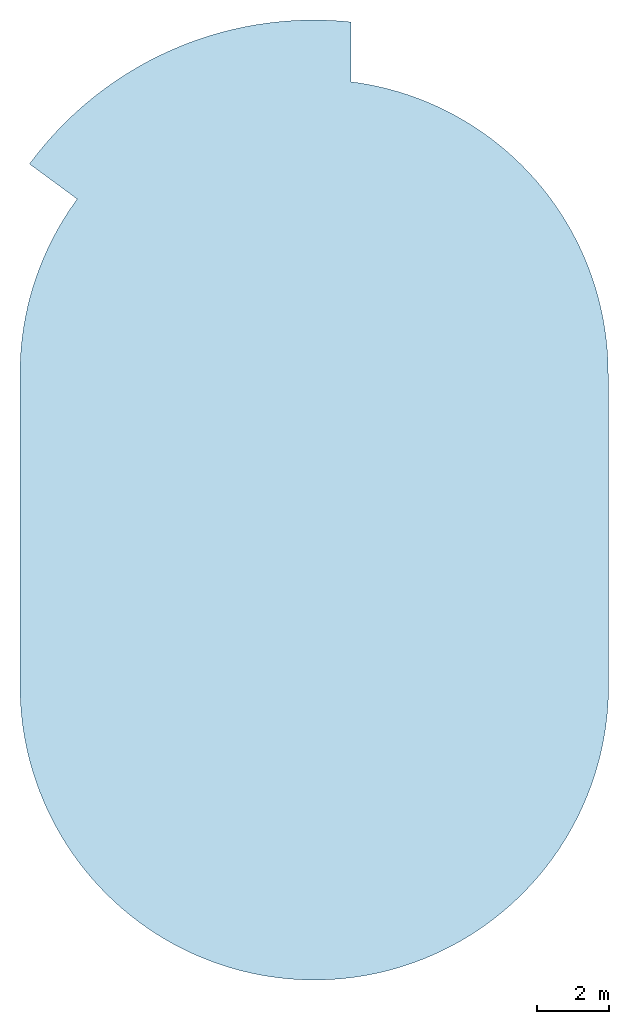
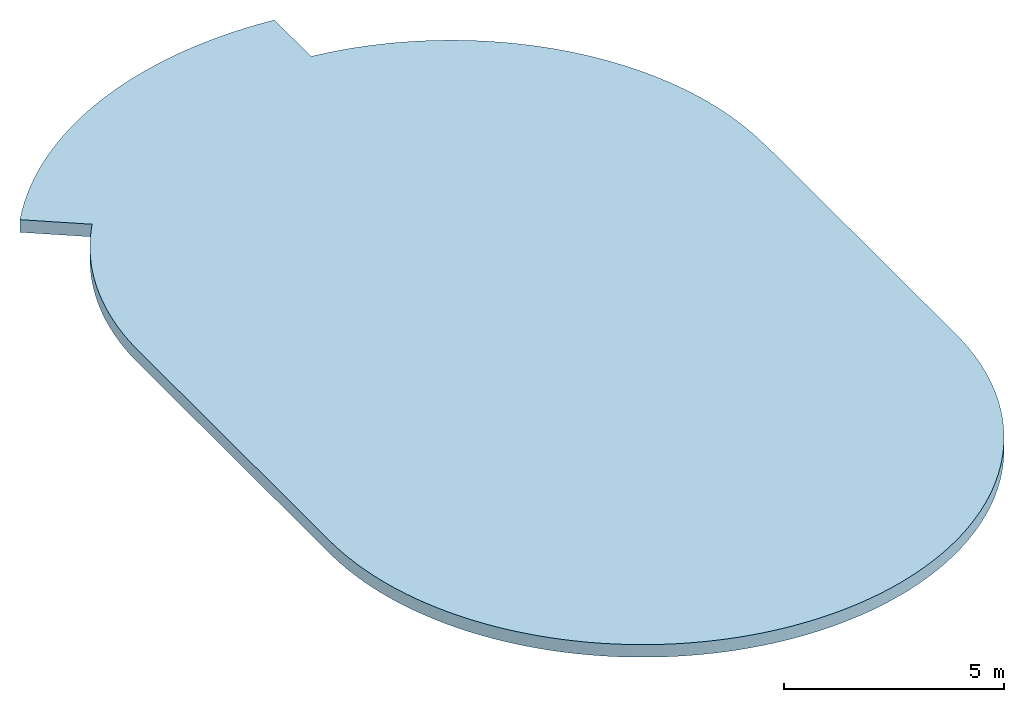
# One storey: 1 slab.
"""IFC4 building model written with IfcOpenShell, lengths in millimetres."""

from ifc_helpers import new_model, entity, si_unit, converted_unit, derived_unit, direction, frame, origin_with_axes, place, context, subcontext, project, spatial, polygons, material, type_object, element, save


model = new_model("IFC4")

# Units and contexts
model_context = context("Model", 3, precision=0.01, world=origin_with_axes(), true_north=direction((0.0, 1.0)))
body_context = subcontext(model_context, "Body", "Model", "MODEL_VIEW")
ifc_project = project(units=[si_unit("LENGTHUNIT", "METRE", prefix="MILLI"), si_unit("AREAUNIT", "SQUARE_METRE"), si_unit("VOLUMEUNIT", "CUBIC_METRE"), converted_unit("PLANEANGLEUNIT", "DEGREE", entity("IfcPlaneAngleMeasure", 0.0174532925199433), si_unit("PLANEANGLEUNIT", "RADIAN"), dimensions=[0, 0, 0, 0, 0, 0, 0]), converted_unit("TIMEUNIT", "Year", entity("IfcTimeMeasure", 31557600.0), si_unit("TIMEUNIT", "SECOND"), dimensions=[0, 0, 1, 0, 0, 0, 0]), si_unit("MASSUNIT", "GRAM", prefix="KILO"), si_unit("THERMODYNAMICTEMPERATUREUNIT", "DEGREE_CELSIUS"), si_unit("LUMINOUSINTENSITYUNIT", "LUMEN"), si_unit("ENERGYUNIT", "JOULE", prefix="MEGA"), derived_unit("THERMALCONDUCTANCEUNIT", [(si_unit("POWERUNIT", "WATT"), 1), (si_unit("LENGTHUNIT", "METRE"), -1), (si_unit("THERMODYNAMICTEMPERATUREUNIT", "KELVIN"), -1)]), derived_unit("SPECIFICHEATCAPACITYUNIT", [(si_unit("ENERGYUNIT", "JOULE"), 1), (si_unit("MASSUNIT", "GRAM", prefix="KILO"), -1), (si_unit("THERMODYNAMICTEMPERATUREUNIT", "KELVIN"), -1)]), derived_unit("MASSDENSITYUNIT", [(si_unit("MASSUNIT", "GRAM", prefix="KILO"), 1), (si_unit("VOLUMEUNIT", "CUBIC_METRE"), -1)])], contexts=[model_context])

# Site, building, storey
site_placement = place(None, origin_with_axes())
site = spatial("IfcSite", under=ifc_project, at=site_placement, Name="Exteriér", CompositionType="ELEMENT")
building_placement = place(site_placement, origin_with_axes())
building = spatial("IfcBuilding", under=site, at=building_placement, Name="Univerzitní lezecké centrum", CompositionType="ELEMENT")
storey_placement = place(building_placement, frame((0.0, 0.0, -4070.0), z_axis=(0.0, 0.0, 1.0), x_axis=(1.0, 0.0, 0.0)))
storey = spatial("IfcBuildingStorey", under=building, at=storey_placement, Name="ZÁKLADY", CompositionType="ELEMENT", Elevation=-4070.0)

# Slab
ifc_material = material(Name="Beton vyztužený základová deska")
slab_type = type_object("IfcSlabType", Name="Beton vyztužený základová deska 350", PredefinedType="FLOOR")
slab_placement = place(storey_placement, frame((-5750.148351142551, 4400.000000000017, 499.9999999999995), z_axis=(0.0, 0.0, 1.0), x_axis=(1.0, 0.0, 0.0)))
element("IfcSlab", 1, at=slab_placement, inside=storey, type_object=slab_type, material=ifc_material, Name="D01", PredefinedType="FLOOR", context=body_context, shape_type="Tessellation", body=[
    polygons([(16400.0, -4699.999999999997, -350.0000000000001), (16400.0, 4000.000000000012, -350.0000000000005), (16400.0, 4000.000000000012, 0.0), (16400.0, -4699.999999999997, 0.0), (16388.99999776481, 4143.738235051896, -350.0000000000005), (16388.99999776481, 4000.000000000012, -350.0000000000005), (16396.21112790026, -4987.818293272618, -350.0000000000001), (16381.06147443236, -5275.281995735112, -350.0000000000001), (16355.83279095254, -5562.036953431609, -350.0000000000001), (16320.55615908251, -5847.729885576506, -350.0000000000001), (16275.27503947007, -6132.008819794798, -350.0000000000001), (16220.04521824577, -6414.52352575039, -350.0000000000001), (16154.93473829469, -6694.925946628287, -350.0000000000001), (16080.02381542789, -6972.870627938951, -350.0000000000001), (15995.40473955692, -7248.015143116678, -350.0000000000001), (15901.18176099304, -7520.020515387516, -350.0000000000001), (15797.47096201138, -7788.551635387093, -350.0000000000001), (15684.40011383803, -8053.277674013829, -350.0000000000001), (15562.10851923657, -8313.87249000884, -350.0000000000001), (15430.74684088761, -8570.015031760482, -350.0000000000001), (15290.47691577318, -8821.389732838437, -350.0000000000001), (15141.47155579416, -9067.686900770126, -350.0000000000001), (14983.91433486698, -9308.603098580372, -350.0000000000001), (14817.99936276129, -9543.8415186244, -350.0000000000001), (14643.93104595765, -9773.112348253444, -350.0000000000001), (14461.92383581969, -9996.133126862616, -350.0000000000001), (14272.20196439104, -10212.62909388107, -350.0000000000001), (14074.99916814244, -10422.33352727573, -350.0000000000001), (13870.55840000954, -10624.98807215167, -350.0000000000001), (13659.13153007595, -10820.34305904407, -350.0000000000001), (13440.97903527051, -11008.1578115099, -350.0000000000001), (13216.36967846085, -11188.20094264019, -350.0000000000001), (12985.58017733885, -11360.25064012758, -350.0000000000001), (12748.89486350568, -11524.09493953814, -350.0000000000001), (12506.60533217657, -11679.53198545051, -350.0000000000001), (12259.01008293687, -11826.37028014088, -350.0000000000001), (12006.41415199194, -11964.42891950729, -350.0000000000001), (11749.12873636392, -12093.53781594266, -350.0000000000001), (11487.47081049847, -12213.53790788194, -350.0000000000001), (11221.76273575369, -12324.28135576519, -350.0000000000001), (10952.33186325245, -12425.63172417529, -350.0000000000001), (10679.51013058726, -12517.4641499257, -350.0000000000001), (10403.63365287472, -12599.66549589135, -350.0000000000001), (10125.04230866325, -12672.13449039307, -350.0000000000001), (9844.079321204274, -12734.7818519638, -350.0000000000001), (9561.09083560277, -12787.53039934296, -350.0000000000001), (9276.425492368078, -12830.31514656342, -350.0000000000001), (8990.43399789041, -12863.08338301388, -350.0000000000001), (8703.468692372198, -12885.79473837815, -350.0000000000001), (8415.88311574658, -12898.42123237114, -350.0000000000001), (8128.031572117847, -12900.94730921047, -350.0000000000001), (7840.268693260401, -12893.36985678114, -350.0000000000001), (7552.949001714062, -12875.69821046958, -350.0000000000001), (7266.426474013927, -12847.95414166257, -350.0000000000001), (6981.054104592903, -12810.17183092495, -350.0000000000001), (6697.183470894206, -12762.39782588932, -350.0000000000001), (6415.164300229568, -12704.69098390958, -350.0000000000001), (6135.3440389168, -12637.12239954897, -350.0000000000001), (5858.067424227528, -12559.77531699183, -350.0000000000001), (5583.676059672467, -12472.74502748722, -350.0000000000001), (5312.507994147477, -12376.1387519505, -350.0000000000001), (5044.897305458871, -12270.07550886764, -350.0000000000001), (4781.173688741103, -12154.68596766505, -350.0000000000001), (4521.662050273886, -12030.11228772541, -350.0000000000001), (4266.68210719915, -11896.50794324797, -350.0000000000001), (4016.547993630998, -11754.03753416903, -350.0000000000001), (3771.567873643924, -11602.87658337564, -350.0000000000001), (3532.043561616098, -11443.21132046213, -350.0000000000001), (3298.270150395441, -11275.23845229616, -350.0000000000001), (3070.535647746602, -11099.16492067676, -350.0000000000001), (2849.120621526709, -10915.20764738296, -350.0000000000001), (2634.297854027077, -10723.59326692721, -350.0000000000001), (2426.332005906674, -10524.55784734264, -350.0000000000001), (2225.479290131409, -10318.3465993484, -350.0000000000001), (2031.987156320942, -10105.21357425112, -350.0000000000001), (1846.093985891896, -9885.42135095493, -350.0000000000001), (1668.02879837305, -9659.240712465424, -350.0000000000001), (1498.010969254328, -9426.950312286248, -350.0000000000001), (1336.249959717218, -9188.83633111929, -350.0000000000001), (1182.945058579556, -8945.19212429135, -350.0000000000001), (1038.285136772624, -8696.317860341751, -350.0000000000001), (902.448414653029, -8442.520151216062, -350.0000000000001), (775.6022424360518, -8184.111674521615, -350.0000000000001), (657.9028940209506, -7921.410788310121, -350.0000000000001), (549.4953744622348, -7654.741138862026, -350.0000000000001), (450.5132413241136, -7384.431261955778, -350.0000000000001), (361.0784401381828, -7110.814178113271, -350.0000000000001), (281.3011541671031, -6834.226982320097, -350.0000000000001), (211.2796686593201, -6555.010428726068, -350.0000000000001), (151.1002497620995, -6273.508510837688, -350.0000000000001), (100.8370382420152, -5990.068037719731, -350.0000000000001), (60.55195814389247, -5705.038206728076, -350.0000000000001), (30.29464050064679, -5418.770173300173, -350.0000000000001), (10.10236218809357, -5131.616618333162, -350.0000000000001), (0.0, -4843.931313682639, -350.0000000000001), (0.0, -4699.999999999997, -350.0000000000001), (0.0, 4000.000000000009, -350.0000000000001), (0.3867747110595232, 4164.496743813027, -350.0000000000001), (11.21062979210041, 4452.155806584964, -350.0000000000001), (32.12303561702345, 4739.257815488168, -350.0000000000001), (63.09822819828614, 5025.449062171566, -350.0000000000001), (104.09804624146, 5310.376960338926, -350.0000000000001), (155.0719781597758, 5593.690480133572, -350.0000000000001), (215.9572243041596, 5875.040580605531, -350.0000000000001), (286.6787743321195, 6154.080639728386, -350.0000000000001), (367.1494996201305, 6430.466881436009, -350.0000000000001), (457.2702606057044, 6703.858799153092, -350.0000000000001), (556.9300289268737, 6973.919575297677, -350.0000000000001), (666.0060242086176, 7240.316496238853, -350.0000000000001), (784.3638653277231, 7502.721362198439, -350.0000000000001), (911.8577359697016, 7760.810891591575, -350.0000000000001), (1048.330564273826, 8014.26711930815, -350.0000000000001), (1193.614216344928, 8262.777788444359, -350.0000000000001), (1347.529703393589, 8506.036735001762, -350.0000000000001), (1509.887402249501, 8743.744265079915, -350.0000000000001), (1595.187345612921, 8859.675894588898, -350.0000000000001), (1593.007202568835, 8858.738743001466, -350.0000000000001), (264.7648731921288, 9835.519354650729, -350.0000000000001), (298.3153838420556, 9883.026591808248, -350.0000000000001), (489.3694703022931, 10131.60763733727, -350.0000000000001), (688.2533748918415, 10373.96974791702, -350.0000000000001), (894.7648003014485, 10609.86640182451, -350.0000000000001), (1108.693690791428, 10839.05765375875, -350.0000000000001), (1329.82244585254, 11061.3103789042, -350.0000000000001), (1557.926141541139, 11276.39851005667, -350.0000000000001), (1792.772759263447, 11484.10326757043, -350.0000000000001), (2034.123421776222, 11684.21338189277, -350.0000000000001), (2281.73263616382, 11876.52530845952, -350.0000000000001), (2535.348543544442, 12060.84343473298, -350.0000000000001), (2794.713175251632, 12236.98027917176, -350.0000000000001), (3059.562715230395, 12404.75668192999, -350.0000000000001), (3329.627768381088, 12564.0019870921, -350.0000000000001), (3604.633634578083, 12714.55421625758, -350.0000000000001), (3884.300588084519, 12856.26023329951, -350.0000000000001), (4168.34416207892, 12988.97590012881, -350.0000000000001), (4456.475438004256, 13112.5662233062, -350.0000000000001), (4748.401339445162, 13226.90549135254, -350.0000000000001), (5043.824930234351, 13331.87740261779, -350.0000000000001), (5342.44571648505, 13427.37518357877, -350.0000000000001), (5643.9599522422, 13513.3016974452, -350.0000000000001), (5948.060948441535, 13589.56954296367, -350.0000000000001), (6254.439384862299, 13656.10114331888, -350.0000000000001), (6562.783624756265, 13712.82882504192, -350.0000000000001), (6872.780031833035, 13759.69488684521, -350.0000000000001), (7184.113289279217, 13796.65165831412, -350.0000000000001), (7496.466720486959, 13823.6615483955, -350.0000000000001), (7809.522611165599, 13840.69708363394, -350.0000000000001), (8122.962532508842, 13847.7409361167, -350.0000000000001), (8436.467665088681, 13844.78594109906, -350.0000000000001), (8749.71912314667, 13831.83510429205, -350.0000000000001), (9062.398278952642, 13808.90159880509, -350.0000000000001), (9218.292682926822, 13792.45517527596, -350.0000000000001), (9218.292682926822, 12136.52751558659, -350.0000000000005), (9216.952511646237, 12125.81906144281, -350.0000000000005), (9417.310723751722, 12099.29232991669, -350.0000000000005), (9700.800555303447, 12051.582411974, -350.0000000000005), (9982.441407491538, 11993.95298162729, -350.0000000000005), (10261.88630008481, 11926.47503806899, -350.0000000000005), (10538.79095826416, 11849.23171381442, -350.0000000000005), (10812.81423676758, 11762.31817228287, -350.0000000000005), (11083.61854017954, 11665.84149055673, -350.0000000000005), (11350.87023884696, 11559.92052746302, -350.0000000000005), (11614.24007990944, 11444.68577713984, -350.0000000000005), (11873.40359293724, 11320.27920826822, -350.0000000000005), (12128.04148967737, 11186.85408916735, -350.0000000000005), (12377.84005741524, 11044.5747989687, -350.0000000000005), (12622.49154546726, 10893.61662510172, -350.0000000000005), (12861.69454432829, 10734.16554734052, -350.0000000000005), (13095.15435700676, 10566.41800867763, -350.0000000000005), (13322.58336208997, 10390.58067330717, -350.0000000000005), (13543.70136809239, 10206.8701720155, -350.0000000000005), (13758.23595865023, 10015.51283529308, -350.0000000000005), (13965.9228281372, 9816.744414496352, -350.0000000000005), (14166.50610728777, 9610.809791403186, -350.0000000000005), (14359.73867842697, 9397.962676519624, -350.0000000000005), (14545.38247991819, 9178.46529650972, -350.0000000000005), (14723.20879945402, 8952.588071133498, -350.0000000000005), (14892.9985558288, 8720.609280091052, -350.0000000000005), (15054.54256884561, 8482.814720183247, -350.0000000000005), (15207.64181702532, 8239.49735321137, -350.0000000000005), (15352.10768280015, 7990.956945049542, -350.0000000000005), (15487.76218488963, 7737.499696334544, -350.0000000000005), (15614.43819757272, 7479.43786522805, -350.0000000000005), (15731.97965658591, 7217.08938271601, -350.0000000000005), (15840.24175139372, 6950.777460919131, -350.0000000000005), (15939.09110359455, 6680.83019489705, -350.0000000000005), (16028.40593124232, 6407.580158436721, -350.0000000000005), (16108.0761988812, 6131.363994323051, -350.0000000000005), (16178.00375310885, 5852.521999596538, -350.0000000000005), (16238.1024435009, 5571.397706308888, -350.0000000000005), (16288.29822874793, 5288.337458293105, -350.0000000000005), (16328.52926787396, 5003.689984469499, -350.0000000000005), (16358.74599642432, 4717.80596921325, -350.0000000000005), (16378.91118752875, 4431.037620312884, -350.0000000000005), (16388.99999776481, 4000.000000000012, 0.0), (9417.310723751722, 12099.29232991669, 0.0), (9216.952511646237, 12125.81906144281, 0.0), (9218.292682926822, 12136.52751558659, 0.0), (9218.292682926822, 13792.45517527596, 0.0), (9062.398278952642, 13808.90159880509, 0.0), (8749.71912314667, 13831.83510429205, 0.0), (8436.467665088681, 13844.78594109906, 0.0), (8122.962532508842, 13847.7409361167, 0.0), (7809.522611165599, 13840.69708363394, 0.0), (7496.466720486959, 13823.6615483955, 0.0), (7184.113289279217, 13796.65165831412, 0.0), (6872.780031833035, 13759.69488684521, 0.0), (6562.783624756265, 13712.82882504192, 0.0), (6254.439384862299, 13656.10114331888, 0.0), (5948.060948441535, 13589.56954296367, 0.0), (5643.9599522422, 13513.3016974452, 0.0), (5342.44571648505, 13427.37518357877, 0.0), (5043.824930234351, 13331.87740261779, 0.0), (4748.401339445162, 13226.90549135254, 0.0), (4456.475438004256, 13112.5662233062, 0.0), (4168.34416207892, 12988.97590012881, 0.0), (3884.300588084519, 12856.26023329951, 0.0), (3604.633634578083, 12714.55421625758, 0.0), (3329.627768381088, 12564.0019870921, 0.0), (3059.562715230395, 12404.75668192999, 0.0), (2794.713175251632, 12236.98027917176, 0.0), (2535.348543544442, 12060.84343473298, 0.0), (2281.73263616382, 11876.52530845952, 0.0), (2034.123421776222, 11684.21338189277, 0.0), (1792.772759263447, 11484.10326757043, 0.0), (1557.926141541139, 11276.39851005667, 0.0), (1329.82244585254, 11061.3103789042, 0.0), (1108.693690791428, 10839.05765375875, 0.0), (894.7648003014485, 10609.86640182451, 0.0), (688.2533748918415, 10373.96974791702, 0.0), (489.3694703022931, 10131.60763733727, 0.0), (298.3153838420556, 9883.026591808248, 0.0), (264.7648731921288, 9835.519354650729, 0.0), (1593.007202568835, 8858.738743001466, 0.0), (1595.187345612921, 8859.675894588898, 0.0), (1509.887402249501, 8743.744265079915, 0.0), (1347.529703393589, 8506.036735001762, 0.0), (1193.614216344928, 8262.777788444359, 0.0), (1048.330564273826, 8014.26711930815, 0.0), (911.8577359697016, 7760.810891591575, 0.0), (784.3638653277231, 7502.721362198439, 0.0), (666.0060242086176, 7240.316496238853, 0.0), (556.9300289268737, 6973.919575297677, 0.0), (457.2702606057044, 6703.858799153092, 0.0), (367.1494996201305, 6430.466881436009, 0.0), (286.6787743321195, 6154.080639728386, 0.0), (215.9572243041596, 5875.040580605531, 0.0), (155.0719781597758, 5593.690480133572, 0.0), (104.09804624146, 5310.376960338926, 0.0), (63.09822819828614, 5025.449062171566, 0.0), (32.12303561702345, 4739.257815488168, 0.0), (11.21062979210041, 4452.155806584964, 0.0), (0.3867747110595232, 4164.496743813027, 0.0), (0.0, 4000.000000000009, 0.0), (0.0, -4699.999999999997, 0.0), (0.0, -4843.931313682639, 0.0), (10.10236218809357, -5131.616618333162, 0.0), (30.29464050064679, -5418.770173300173, 0.0), (60.55195814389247, -5705.038206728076, 0.0), (100.8370382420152, -5990.068037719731, 0.0), (151.1002497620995, -6273.508510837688, 0.0), (211.2796686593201, -6555.010428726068, 0.0), (281.3011541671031, -6834.226982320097, 0.0), (361.0784401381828, -7110.814178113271, 0.0), (450.5132413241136, -7384.431261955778, 0.0), (549.4953744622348, -7654.741138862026, 0.0), (657.9028940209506, -7921.410788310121, 0.0), (775.6022424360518, -8184.111674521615, 0.0), (902.448414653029, -8442.520151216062, 0.0), (1038.285136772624, -8696.317860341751, 0.0), (1182.945058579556, -8945.19212429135, 0.0), (1336.249959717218, -9188.83633111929, 0.0), (1498.010969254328, -9426.950312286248, 0.0), (1668.02879837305, -9659.240712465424, 0.0), (1846.093985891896, -9885.42135095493, 0.0), (2031.987156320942, -10105.21357425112, 0.0), (2225.479290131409, -10318.3465993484, 0.0), (2426.332005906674, -10524.55784734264, 0.0), (2634.297854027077, -10723.59326692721, 0.0), (2849.120621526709, -10915.20764738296, 0.0), (3070.535647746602, -11099.16492067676, 0.0), (3298.270150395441, -11275.23845229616, 0.0), (3532.043561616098, -11443.21132046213, 0.0), (3771.567873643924, -11602.87658337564, 0.0), (4016.547993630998, -11754.03753416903, 0.0), (4266.68210719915, -11896.50794324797, 0.0), (4521.662050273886, -12030.11228772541, 0.0), (4781.173688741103, -12154.68596766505, 0.0), (5044.897305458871, -12270.07550886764, 0.0), (5312.507994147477, -12376.1387519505, 0.0), (5583.676059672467, -12472.74502748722, 0.0), (5858.067424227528, -12559.77531699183, 0.0), (6135.3440389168, -12637.12239954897, 0.0), (6415.164300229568, -12704.69098390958, 0.0), (6697.183470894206, -12762.39782588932, 0.0), (6981.054104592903, -12810.17183092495, 0.0), (7266.426474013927, -12847.95414166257, 0.0), (7552.949001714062, -12875.69821046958, 0.0), (7840.268693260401, -12893.36985678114, 0.0), (8128.031572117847, -12900.94730921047, 0.0), (8415.88311574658, -12898.42123237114, 0.0), (8703.468692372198, -12885.79473837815, 0.0), (8990.43399789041, -12863.08338301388, 0.0), (9276.425492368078, -12830.31514656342, 0.0), (9561.09083560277, -12787.53039934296, 0.0), (9844.079321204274, -12734.7818519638, 0.0), (10125.04230866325, -12672.13449039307, 0.0), (10403.63365287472, -12599.66549589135, 0.0), (10679.51013058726, -12517.4641499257, 0.0), (10952.33186325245, -12425.63172417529, 0.0), (11221.76273575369, -12324.28135576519, 0.0), (11487.47081049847, -12213.53790788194, 0.0), (11749.12873636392, -12093.53781594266, 0.0), (12006.41415199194, -11964.42891950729, 0.0), (12259.01008293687, -11826.37028014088, 0.0), (12506.60533217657, -11679.53198545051, 0.0), (12748.89486350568, -11524.09493953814, 0.0), (12985.58017733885, -11360.25064012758, 0.0), (13216.36967846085, -11188.20094264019, 0.0), (13440.97903527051, -11008.1578115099, 0.0), (13659.13153007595, -10820.34305904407, 0.0), (13870.55840000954, -10624.98807215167, 0.0), (14074.99916814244, -10422.33352727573, 0.0), (14272.20196439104, -10212.62909388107, 0.0), (14461.92383581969, -9996.133126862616, 0.0), (14643.93104595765, -9773.112348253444, 0.0), (14817.99936276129, -9543.8415186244, 0.0), (14983.91433486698, -9308.603098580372, 0.0), (15141.47155579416, -9067.686900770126, 0.0), (15290.47691577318, -8821.389732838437, 0.0), (15430.74684088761, -8570.015031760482, 0.0), (15562.10851923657, -8313.87249000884, 0.0), (15684.40011383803, -8053.277674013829, 0.0), (15797.47096201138, -7788.551635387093, 0.0), (15901.18176099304, -7520.020515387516, 0.0), (15995.40473955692, -7248.015143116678, 0.0), (16080.02381542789, -6972.870627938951, 0.0), (16154.93473829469, -6694.925946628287, 0.0), (16220.04521824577, -6414.52352575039, 0.0), (16275.27503947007, -6132.008819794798, 0.0), (16320.55615908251, -5847.729885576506, 0.0), (16355.83279095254, -5562.036953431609, 0.0), (16381.06147443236, -5275.281995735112, 0.0), (16396.21112790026, -4987.818293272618, 0.0), (16388.99999776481, 4143.738235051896, 0.0), (16378.91118752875, 4431.037620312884, 0.0), (16358.74599642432, 4717.80596921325, 0.0), (16328.52926787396, 5003.689984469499, 0.0), (16288.29822874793, 5288.337458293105, 0.0), (16238.1024435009, 5571.397706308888, 0.0), (16178.00375310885, 5852.521999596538, 0.0), (16108.0761988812, 6131.363994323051, 0.0), (16028.40593124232, 6407.580158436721, 0.0), (15939.09110359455, 6680.83019489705, 0.0), (15840.24175139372, 6950.777460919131, 0.0), (15731.97965658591, 7217.08938271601, 0.0), (15614.43819757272, 7479.43786522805, 0.0), (15487.76218488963, 7737.499696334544, 0.0), (15352.10768280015, 7990.956945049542, 0.0), (15207.64181702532, 8239.49735321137, 0.0), (15054.54256884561, 8482.814720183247, 0.0), (14892.9985558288, 8720.609280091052, 0.0), (14723.20879945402, 8952.588071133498, 0.0), (14545.38247991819, 9178.46529650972, 0.0), (14359.73867842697, 9397.962676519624, 0.0), (14166.50610728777, 9610.809791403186, 0.0), (13965.9228281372, 9816.744414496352, 0.0), (13758.23595865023, 10015.51283529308, 0.0), (13543.70136809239, 10206.8701720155, 0.0), (13322.58336208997, 10390.58067330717, 0.0), (13095.15435700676, 10566.41800867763, 0.0), (12861.69454432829, 10734.16554734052, 0.0), (12622.49154546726, 10893.61662510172, 0.0), (12377.84005741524, 11044.5747989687, 0.0), (12128.04148967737, 11186.85408916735, 0.0), (11873.40359293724, 11320.27920826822, 0.0), (11614.24007990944, 11444.68577713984, 0.0), (11350.87023884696, 11559.92052746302, 0.0), (11083.61854017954, 11665.84149055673, 0.0), (10812.81423676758, 11762.31817228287, 0.0), (10538.79095826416, 11849.23171381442, 0.0), (10261.88630008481, 11926.47503806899, 0.0), (9982.441407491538, 11993.95298162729, 0.0), (9700.800555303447, 12051.582411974, 0.0)], [[[1, 2, 3, 4]], [[5, 6, 2, 1, 7, 8, 9, 10, 11, 12, 13, 14, 15, 16, 17, 18, 19, 20, 21, 22, 23, 24, 25, 26, 27, 28, 29, 30, 31, 32, 33, 34, 35, 36, 37, 38, 39, 40, 41, 42, 43, 44, 45, 46, 47, 48, 49, 50, 51, 52, 53, 54, 55, 56, 57, 58, 59, 60, 61, 62, 63, 64, 65, 66, 67, 68, 69, 70, 71, 72, 73, 74, 75, 76, 77, 78, 79, 80, 81, 82, 83, 84, 85, 86, 87, 88, 89, 90, 91, 92, 93, 94, 95, 96, 97, 98, 99, 100, 101, 102, 103, 104, 105, 106, 107, 108, 109, 110, 111, 112, 113, 114, 115, 116, 117, 118, 119, 120, 121, 122, 123, 124, 125, 126, 127, 128, 129, 130, 131, 132, 133, 134, 135, 136, 137, 138, 139, 140, 141, 142, 143, 144, 145, 146, 147, 148, 149, 150, 151, 152, 153, 154, 155, 156, 157, 158, 159, 160, 161, 162, 163, 164, 165, 166, 167, 168, 169, 170, 171, 172, 173, 174, 175, 176, 177, 178, 179, 180, 181, 182, 183, 184, 185, 186, 187, 188, 189, 190, 191, 192, 193, 194]], [[6, 195, 3, 2]], [[196, 197, 198, 199, 200, 201, 202, 203, 204, 205, 206, 207, 208, 209, 210, 211, 212, 213, 214, 215, 216, 217, 218, 219, 220, 221, 222, 223, 224, 225, 226, 227, 228, 229, 230, 231, 232, 233, 234, 235, 236, 237, 238, 239, 240, 241, 242, 243, 244, 245, 246, 247, 248, 249, 250, 251, 252, 253, 254, 255, 256, 257, 258, 259, 260, 261, 262, 263, 264, 265, 266, 267, 268, 269, 270, 271, 272, 273, 274, 275, 276, 277, 278, 279, 280, 281, 282, 283, 284, 285, 286, 287, 288, 289, 290, 291, 292, 293, 294, 295, 296, 297, 298, 299, 300, 301, 302, 303, 304, 305, 306, 307, 308, 309, 310, 311, 312, 313, 314, 315, 316, 317, 318, 319, 320, 321, 322, 323, 324, 325, 326, 327, 328, 329, 330, 331, 332, 333, 334, 335, 336, 337, 338, 339, 340, 341, 342, 343, 344, 4, 3, 195, 345, 346, 347, 348, 349, 350, 351, 352, 353, 354, 355, 356, 357, 358, 359, 360, 361, 362, 363, 364, 365, 366, 367, 368, 369, 370, 371, 372, 373, 374, 375, 376, 377, 378, 379, 380, 381, 382, 383, 384]], [[4, 344, 7, 1]], [[5, 345, 195, 6]], [[344, 343, 8, 7]], [[343, 342, 9, 8]], [[342, 341, 10, 9]], [[341, 340, 11, 10]], [[340, 339, 12, 11]], [[339, 338, 13, 12]], [[338, 337, 14, 13]], [[337, 336, 15, 14]], [[336, 335, 16, 15]], [[335, 334, 17, 16]], [[334, 333, 18, 17]], [[333, 332, 19, 18]], [[332, 331, 20, 19]], [[331, 330, 21, 20]], [[330, 329, 22, 21]], [[329, 328, 23, 22]], [[328, 327, 24, 23]], [[327, 326, 25, 24]], [[326, 325, 26, 25]], [[325, 324, 27, 26]], [[324, 323, 28, 27]], [[323, 322, 29, 28]], [[322, 321, 30, 29]], [[321, 320, 31, 30]], [[320, 319, 32, 31]], [[319, 318, 33, 32]], [[318, 317, 34, 33]], [[317, 316, 35, 34]], [[316, 315, 36, 35]], [[315, 314, 37, 36]], [[314, 313, 38, 37]], [[313, 312, 39, 38]], [[312, 311, 40, 39]], [[311, 310, 41, 40]], [[310, 309, 42, 41]], [[309, 308, 43, 42]], [[308, 307, 44, 43]], [[307, 306, 45, 44]], [[306, 305, 46, 45]], [[305, 304, 47, 46]], [[304, 303, 48, 47]], [[303, 302, 49, 48]], [[302, 301, 50, 49]], [[301, 300, 51, 50]], [[300, 299, 52, 51]], [[299, 298, 53, 52]], [[298, 297, 54, 53]], [[297, 296, 55, 54]], [[296, 295, 56, 55]], [[295, 294, 57, 56]], [[294, 293, 58, 57]], [[293, 292, 59, 58]], [[292, 291, 60, 59]], [[291, 290, 61, 60]], [[290, 289, 62, 61]], [[289, 288, 63, 62]], [[288, 287, 64, 63]], [[287, 286, 65, 64]], [[286, 285, 66, 65]], [[285, 284, 67, 66]], [[284, 283, 68, 67]], [[283, 282, 69, 68]], [[282, 281, 70, 69]], [[281, 280, 71, 70]], [[280, 279, 72, 71]], [[279, 278, 73, 72]], [[278, 277, 74, 73]], [[277, 276, 75, 74]], [[276, 275, 76, 75]], [[275, 274, 77, 76]], [[274, 273, 78, 77]], [[273, 272, 79, 78]], [[272, 271, 80, 79]], [[271, 270, 81, 80]], [[270, 269, 82, 81]], [[269, 268, 83, 82]], [[268, 267, 84, 83]], [[267, 266, 85, 84]], [[266, 265, 86, 85]], [[265, 264, 87, 86]], [[264, 263, 88, 87]], [[263, 262, 89, 88]], [[262, 261, 90, 89]], [[261, 260, 91, 90]], [[260, 259, 92, 91]], [[259, 258, 93, 92]], [[258, 257, 94, 93]], [[257, 256, 95, 94]], [[256, 255, 96, 95]], [[255, 254, 97, 96]], [[254, 253, 98, 97]], [[253, 252, 99, 98]], [[252, 251, 100, 99]], [[251, 250, 101, 100]], [[250, 249, 102, 101]], [[249, 248, 103, 102]], [[248, 247, 104, 103]], [[247, 246, 105, 104]], [[246, 245, 106, 105]], [[245, 244, 107, 106]], [[244, 243, 108, 107]], [[243, 242, 109, 108]], [[242, 241, 110, 109]], [[241, 240, 111, 110]], [[240, 239, 112, 111]], [[239, 238, 113, 112]], [[238, 237, 114, 113]], [[237, 236, 115, 114]], [[236, 235, 116, 115]], [[235, 234, 117, 116]], [[234, 233, 118, 117]], [[233, 232, 119, 118]], [[232, 231, 120, 119]], [[231, 230, 121, 120]], [[230, 229, 122, 121]], [[229, 228, 123, 122]], [[228, 227, 124, 123]], [[227, 226, 125, 124]], [[226, 225, 126, 125]], [[225, 224, 127, 126]], [[224, 223, 128, 127]], [[223, 222, 129, 128]], [[222, 221, 130, 129]], [[221, 220, 131, 130]], [[220, 219, 132, 131]], [[219, 218, 133, 132]], [[218, 217, 134, 133]], [[217, 216, 135, 134]], [[216, 215, 136, 135]], [[215, 214, 137, 136]], [[214, 213, 138, 137]], [[213, 212, 139, 138]], [[212, 211, 140, 139]], [[211, 210, 141, 140]], [[210, 209, 142, 141]], [[209, 208, 143, 142]], [[208, 207, 144, 143]], [[207, 206, 145, 144]], [[206, 205, 146, 145]], [[205, 204, 147, 146]], [[204, 203, 148, 147]], [[203, 202, 149, 148]], [[202, 201, 150, 149]], [[201, 200, 151, 150]], [[200, 199, 152, 151]], [[199, 198, 153, 152]], [[154, 153, 198, 197]], [[154, 197, 196, 155]], [[155, 196, 384, 156]], [[156, 384, 383, 157]], [[157, 383, 382, 158]], [[158, 382, 381, 159]], [[159, 381, 380, 160]], [[160, 380, 379, 161]], [[161, 379, 378, 162]], [[162, 378, 377, 163]], [[163, 377, 376, 164]], [[164, 376, 375, 165]], [[165, 375, 374, 166]], [[166, 374, 373, 167]], [[167, 373, 372, 168]], [[168, 372, 371, 169]], [[169, 371, 370, 170]], [[170, 370, 369, 171]], [[171, 369, 368, 172]], [[172, 368, 367, 173]], [[173, 367, 366, 174]], [[174, 366, 365, 175]], [[175, 365, 364, 176]], [[176, 364, 363, 177]], [[177, 363, 362, 178]], [[178, 362, 361, 179]], [[179, 361, 360, 180]], [[180, 360, 359, 181]], [[181, 359, 358, 182]], [[182, 358, 357, 183]], [[183, 357, 356, 184]], [[184, 356, 355, 185]], [[185, 355, 354, 186]], [[186, 354, 353, 187]], [[187, 353, 352, 188]], [[188, 352, 351, 189]], [[189, 351, 350, 190]], [[190, 350, 349, 191]], [[191, 349, 348, 192]], [[192, 348, 347, 193]], [[193, 347, 346, 194]], [[194, 346, 345, 5]]], closed=True),
])

save(model, "model.ifc")
